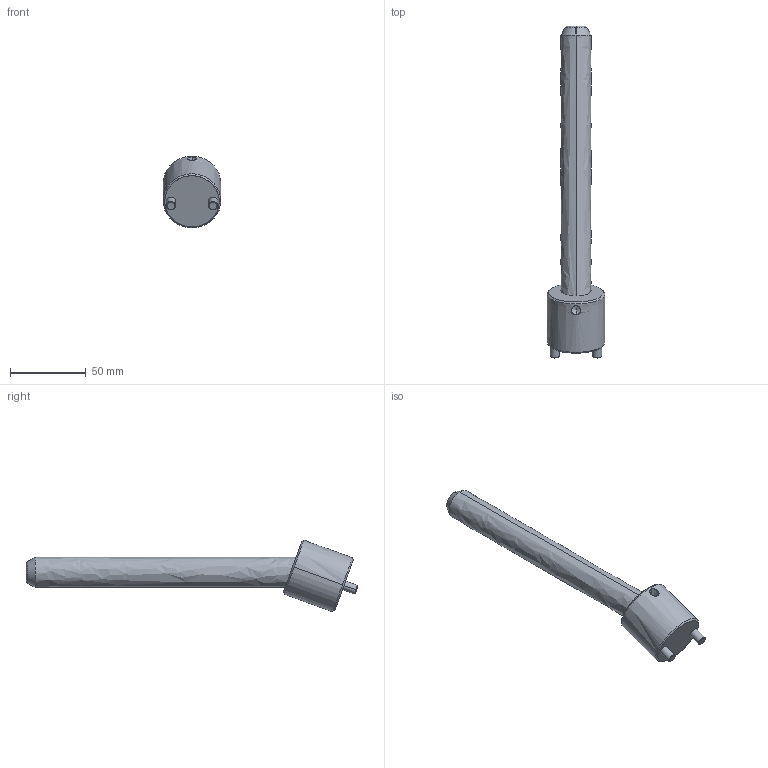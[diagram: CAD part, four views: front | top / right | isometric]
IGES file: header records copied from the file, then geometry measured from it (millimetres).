
Start section: START RECORD GO HERE.
Global section: file name: CI2020175.igs; native system: DASSAULT SYSTEMES CATIA V5 R20 - www.3ds.com; preprocessor: CATIA Version 5 Release 20 ; author: r.borello; organization: CFTORINO; date: 20190624.084317; units: millimetre
Bounding box: 38 x 219.51 x 47.34 mm (x, y, z)
Surface area: 22124.9 mm2 (no closed solid volume)
Topology: 0 solids, 0 shells, 39 faces, 162 edges, 160 vertices
Faces by surface type: revolution 32, plane 7
